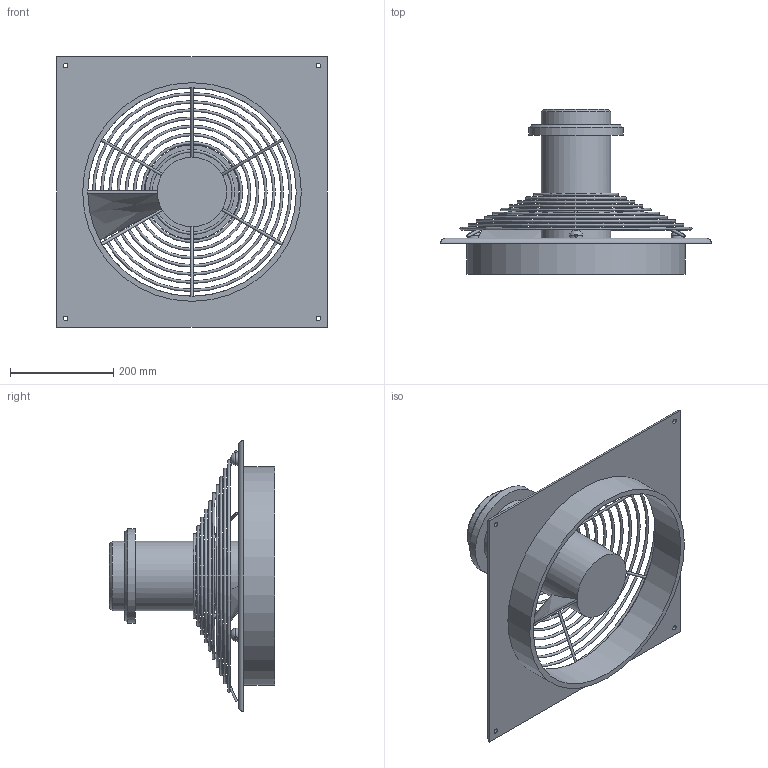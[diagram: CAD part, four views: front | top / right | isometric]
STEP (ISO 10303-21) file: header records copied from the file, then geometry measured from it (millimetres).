
FILE_DESCRIPTION(/* description */ (''),/* implementation_level */ '2;1');
FILE_NAME(/* name */ 'Z:\Output\HQD 400-4-2-01139-020.stp',/* time_stamp */ '2017-05-04T17:44:39+02:00',/* author */ ('pareshmistry'),/* organization */ (''),/* preprocessor_version */ 'ST-DEVELOPER v16.5',/* originating_system */ 'Autodesk Inventor 2017',/* authorisation */ '');
FILE_SCHEMA (('AUTOMOTIVE_DESIGN { 1 0 10303 214 3 1 1 }'));
Length unit declared in the file: millimetre
Products named in the file (1): HQW EC 450
Bounding box: 525 x 320 x 525 mm (x, y, z)
Volume: 7054541.2 mm3; surface area: 854633.3 mm2
Topology: 11 solids, 11 shells, 69 faces, 173 edges, 112 vertices
Faces by surface type: cylinder 25, plane 24, torus 10, bspline 8, cone 2
Full cylindrical faces by diameter (mm): 5 x9, 9 x4, 25 x3, 134.667 x2, 182.55 x1, 404 x1, 424 x1
Entity records: 2157 total; most frequent: CARTESIAN_POINT 845, DIRECTION 264, ORIENTED_EDGE 226, AXIS2_PLACEMENT_3D 121, EDGE_CURVE 112, EDGE_LOOP 104, VERTEX_POINT 84, ADVANCED_FACE 69
